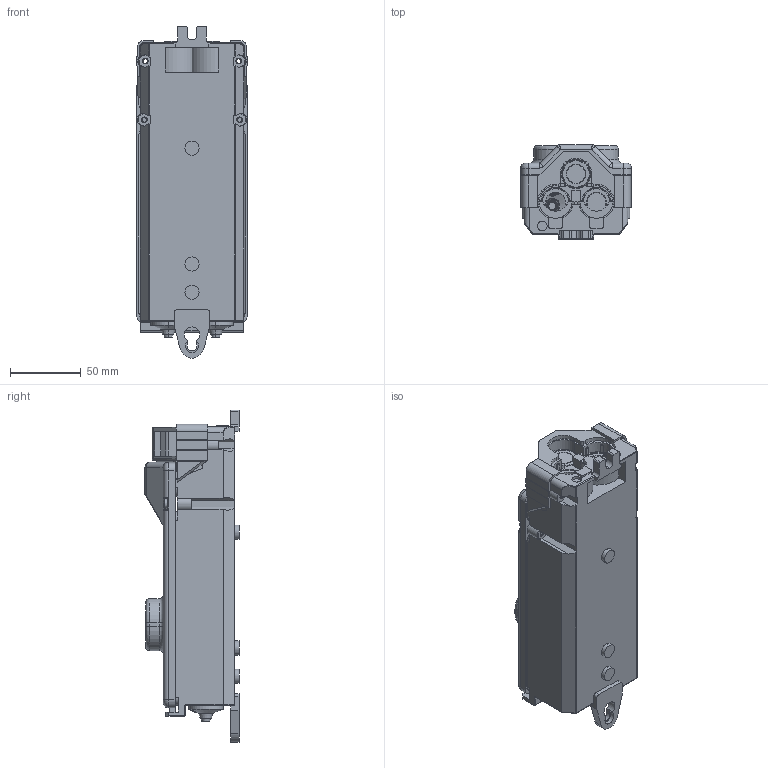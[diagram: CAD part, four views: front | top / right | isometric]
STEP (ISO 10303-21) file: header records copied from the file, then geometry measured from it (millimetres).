
FILE_DESCRIPTION (( 'STEP AP203' ), '1' );
FILE_NAME ('3D - HSW1195 6polig Außenkontur.STEP', '2019-07-10T14:19:56', ( '' ), ( '' ), 'SwSTEP 2.0', 'SolidWorks 2013', '' );
FILE_SCHEMA (( 'CONFIG_CONTROL_DESIGN' ));
Length unit declared in the file: millimetre
Products named in the file (1): 3D - HSW1195 6polig Außenkontur
Bounding box: 78.4 x 66.5 x 234.82 mm (x, y, z)
Surface area: 78044.8 mm2 (no closed solid volume)
Topology: 0 solids, 28 shells, 1064 faces, 3465 edges, 2356 vertices
Faces by surface type: plane 571, cylinder 213, bspline 130, cone 77, torus 67, sphere 6
Entity records: 45747 total; most frequent: CARTESIAN_POINT 17193, ORIENTED_EDGE 5820, DIRECTION 5298, EDGE_CURVE 3459, VERTEX_POINT 2356, LINE 2106, VECTOR 2106, AXIS2_PLACEMENT_3D 1596
